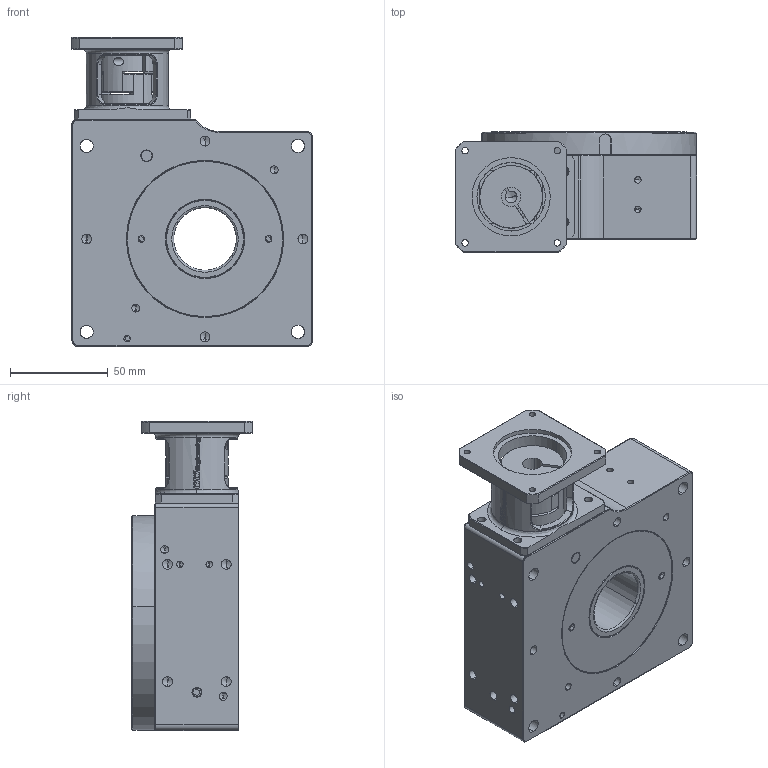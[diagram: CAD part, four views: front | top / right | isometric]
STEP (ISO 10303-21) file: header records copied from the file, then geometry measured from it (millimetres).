
FILE_DESCRIPTION (( 'STEP AP203' ), '1' );
FILE_NAME ('MDT360110-SG-I40-AK-B-N23.STEP', '2018-09-24T13:51:10', ( '' ), ( '' ), 'SwSTEP 2.0', 'SolidWorks 2016', '' );
FILE_SCHEMA (( 'CONFIG_CONTROL_DESIGN' ));
Length unit declared in the file: millimetre
Products named in the file (3): MDT360110-000-01-Gehäuse-komplett-Nema23; MDT360110-000-02-Drehscheibe-komplett; MDT360110-SG-I40-AK-B-N23
Assembly tree (2 placements, depth 2):
  MDT360110-SG-I40-AK-B-N23
    MDT360110-000-01-Gehäuse-komplett-Nema23
    MDT360110-000-02-Drehscheibe-komplett
Bounding box: 123.3 x 62 x 158 mm (x, y, z)
Volume: 554012 mm3; surface area: 200095.2 mm2
Topology: 51 solids, 52 shells, 1680 faces, 4036 edges, 2474 vertices
Faces by surface type: cylinder 511, plane 403, bspline 308, cone 245, torus 209, sphere 4
Entity records: 66920 total; most frequent: CARTESIAN_POINT 30832, ORIENTED_EDGE 7872, DIRECTION 6524, EDGE_CURVE 3936, AXIS2_PLACEMENT_3D 2667, VERTEX_POINT 2474, EDGE_LOOP 1870, ADVANCED_FACE 1680
